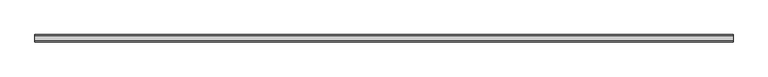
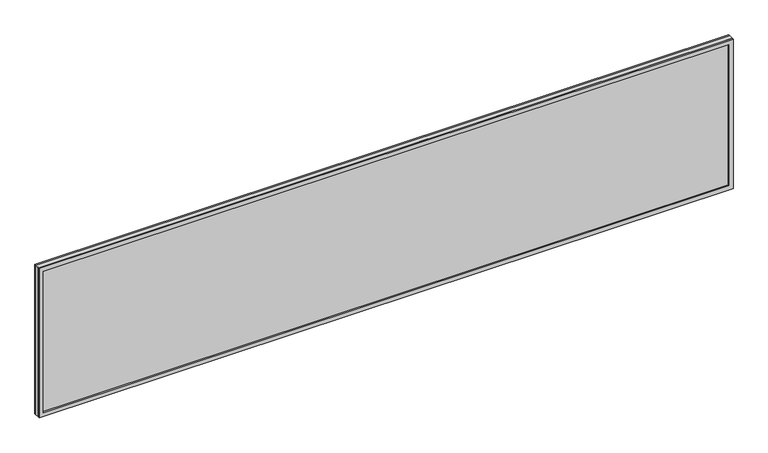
"""IFC4 building model written with IfcOpenShell, lengths in millimetres: plate geometry, ARQ-PA-IN-Vidrio Fijo : ARQ-PA-IN-Vidrio Fijo."""

import ifcopenshell
import ifcopenshell.guid

model = None  # the IFC model being written
_history = None  # IfcOwnerHistory: only IFC2X3 demands one
_inside = {}  # id of a spatial element -> (the spatial element, [elements in it])
_under = {}  # id of a project, library or spatial element -> (it, [spatial elements below it])
_declared = {}  # id of a project -> (the project, [libraries it declares])
_typed = {}  # id of a type object -> (the type object, [elements of that type])
_made_of = {}  # id of a material, layer set ... -> (it, [elements and type objects made of it])


def new_model(schema):
    """Start an empty IFC model of exactly this schema.

    Asked for "IFC4X3", IfcOpenShell would pick the latest addendum, in which some entities
    have other attributes; the version numbers below select the first issue.
    IFC2X3 requires an IfcOwnerHistory on every rooted entity: one is made here for all.
    """
    global model, _history
    if schema == "IFC4X3":
        model = ifcopenshell.file(schema_version=(4, 3, 0, 0))
    else:
        model = ifcopenshell.file(schema=schema)
    _inside.clear()
    _under.clear()
    _declared.clear()
    _typed.clear()
    _made_of.clear()
    _history = None
    if model.schema == "IFC2X3":
        org = make("IfcOrganization", Name="unknown")
        user = make(
            "IfcPersonAndOrganization",
            ThePerson=make("IfcPerson", FamilyName="unknown"),
            TheOrganization=org,
        )
        app = make(
            "IfcApplication",
            ApplicationDeveloper=org,
            Version="unknown",
            ApplicationFullName="unknown",
            ApplicationIdentifier="unknown",
        )
        _history = make(
            "IfcOwnerHistory",
            OwningUser=user,
            OwningApplication=app,
            ChangeAction="ADDED",
            CreationDate=0,
        )
    return model


def make(cls, **values):
    """One entity of the class cls with the attributes given. An attribute that is None is left unset."""
    return model.create_entity(
        cls, **{name: value for name, value in values.items() if value is not None}
    )


def rooted(cls, **values):
    """An entity with a GlobalId (a new one), such as an element, a storey or a relation."""
    return make(cls, GlobalId=ifcopenshell.guid.new(), OwnerHistory=_history, **values)


def si_unit(unit_type, name, prefix=None):
    """IfcSIUnit, for example si_unit("LENGTHUNIT", "METRE", prefix="MILLI")."""
    return make("IfcSIUnit", UnitType=unit_type, Prefix=prefix, Name=name)


def assignment(units):
    """IfcUnitAssignment: the units of a project."""
    return None if units is None else make("IfcUnitAssignment", Units=units)


def point(xyz):
    """IfcCartesianPoint."""
    return None if xyz is None else make("IfcCartesianPoint", Coordinates=xyz)


def direction(xyz):
    """IfcDirection."""
    return None if xyz is None else make("IfcDirection", DirectionRatios=xyz)


def frame(location, z_axis=None, x_axis=None):
    """IfcAxis2Placement3D, a coordinate frame: its origin and axes. An axis left out is left unset."""
    return make(
        "IfcAxis2Placement3D",
        Location=point(location),
        Axis=direction(z_axis),
        RefDirection=direction(x_axis),
    )


def origin():
    """The frame at (0, 0, 0) with its axes left unset."""
    return frame((0.0, 0.0, 0.0))


def origin_with_axes():
    """The frame at (0, 0, 0) with the z axis (0, 0, 1) and the x axis (1, 0, 0) written out."""
    return frame((0.0, 0.0, 0.0), z_axis=(0.0, 0.0, 1.0), x_axis=(1.0, 0.0, 0.0))


def place(relative_to, where):
    """IfcLocalPlacement: puts the frame where relative to a parent placement (None: the world)."""
    return make(
        "IfcLocalPlacement", PlacementRelTo=relative_to, RelativePlacement=where
    )


def context(
    kind, dimensions, precision=None, world=None, true_north=None, identifier=None
):
    """IfcGeometricRepresentationContext, for example the 3D "Model" context."""
    return make(
        "IfcGeometricRepresentationContext",
        ContextIdentifier=identifier,
        ContextType=kind,
        CoordinateSpaceDimension=dimensions,
        Precision=precision,
        WorldCoordinateSystem=world,
        TrueNorth=true_north,
    )


def project(units=None, contexts=None):
    """IfcProject with its units and contexts."""
    return rooted(
        "IfcProject",
        Name="project",
        RepresentationContexts=contexts,
        UnitsInContext=assignment(units),
    )


def spatial(cls, under=None, at=None, **own):
    """A site, building, storey or space (cls), placed at a placement, below another one or the project."""
    s = rooted(cls, ObjectPlacement=at, **own)
    if under is not None:
        _under.setdefault(under.id(), (under, []))[1].append(s)
    return s


def polyline(points):
    """IfcPolyline through the points."""
    return make("IfcPolyline", Points=[point(p) for p in points])


def outline(outer, holes=None, kind="AREA"):
    """IfcArbitraryClosedProfileDef: a profile drawn as a closed curve; with holes, ...WithVoids."""
    if holes is None:
        return make("IfcArbitraryClosedProfileDef", ProfileType=kind, OuterCurve=outer)
    return make(
        "IfcArbitraryProfileDefWithVoids",
        ProfileType=kind,
        OuterCurve=outer,
        InnerCurves=holes,
    )


def extrude(swept, where, along, depth):
    """IfcExtrudedAreaSolid: the profile swept, set in the frame where, extruded along a direction by depth."""
    return make(
        "IfcExtrudedAreaSolid",
        SweptArea=swept,
        Position=where,
        ExtrudedDirection=direction(along),
        Depth=depth,
    )


def shape(context_of_items, identifier, shape_type, items):
    """IfcShapeRepresentation: the items that make up one representation, for example the "Body"."""
    return make(
        "IfcShapeRepresentation",
        ContextOfItems=context_of_items,
        RepresentationIdentifier=identifier,
        RepresentationType=shape_type,
        Items=items,
    )


def source(mapping_origin, context_of_items, identifier, shape_type, items):
    """IfcRepresentationMap: a shape defined once, which mapped items show again and again."""
    return make(
        "IfcRepresentationMap",
        MappingOrigin=mapping_origin,
        MappedRepresentation=shape(context_of_items, identifier, shape_type, items),
    )


def transform(
    local_origin,
    x_axis=None,
    y_axis=None,
    z_axis=None,
    scale=None,
    scale2=None,
    scale3=None,
    uniform=True,
):
    """IfcCartesianTransformationOperator3D, or its non-uniform kind. x_axis, y_axis, z_axis: its Axis1, 2, 3."""
    if uniform:
        return make(
            "IfcCartesianTransformationOperator3D",
            Axis1=direction(x_axis),
            Axis2=direction(y_axis),
            LocalOrigin=point(local_origin),
            Scale=scale,
            Axis3=direction(z_axis),
        )
    return make(
        "IfcCartesianTransformationOperator3DnonUniform",
        Axis1=direction(x_axis),
        Axis2=direction(y_axis),
        LocalOrigin=point(local_origin),
        Scale=scale,
        Axis3=direction(z_axis),
        Scale2=scale2,
        Scale3=scale3,
    )


def mapped(mapping_source, mapping_target):
    """IfcMappedItem: shows the shape of a source again, moved by a transform."""
    return make(
        "IfcMappedItem", MappingSource=mapping_source, MappingTarget=mapping_target
    )


def made_of(thing, what):
    """Note that an element or type object is made of a material, layer set ...; save() writes the relation."""
    if what is not None:
        _made_of.setdefault(what.id(), (what, []))[1].append(thing)
    return thing


def element(
    cls,
    number,
    at=None,
    inside=None,
    cuts=None,
    type_object=None,
    material=None,
    context=None,
    identifier="Body",
    shape_type=None,
    held_by="IfcProductDefinitionShape",
    body=None,
    shapes=None,
    **own,
):
    """One element of the class cls, such as IfcWall. Its Tag is "e" and its number.

    at: its placement. inside: the storey or other place that contains it. cuts: it is an
    opening in that element (IfcRelVoidsElement). A single representation is given by context,
    identifier, shape_type and body (its items); several are given by shapes. held_by: the class
    of the entity that holds the representations. save() writes the other relations.
    """
    e = rooted(cls, Tag="e%d" % number, ObjectPlacement=at, **own)
    if body is not None:
        shapes = [shape(context, identifier, shape_type, body)]
    if shapes is not None:
        e.Representation = make(held_by, Representations=shapes)
    if inside is not None:
        _inside.setdefault(inside.id(), (inside, []))[1].append(e)
    if cuts is not None:
        rooted(
            "IfcRelVoidsElement", RelatingBuildingElement=cuts, RelatedOpeningElement=e
        )
    if type_object is not None:
        _typed.setdefault(type_object.id(), (type_object, []))[1].append(e)
    return made_of(e, material)


def aggregate(whole, parts):
    """IfcRelAggregates: a whole, such as a stair, and the parts it consists of."""
    return rooted("IfcRelAggregates", RelatingObject=whole, RelatedObjects=parts)


def save(model, path):
    """Write the relations noted so far, then the file.

    IfcRelAggregates (storeys below a building ...), IfcRelContainedInSpatialStructure (elements
    in a storey), IfcRelDefinesByType, IfcRelAssociatesMaterial and IfcRelDeclares: one each for
    every whole, place, type object, material and project.
    """
    for whole, parts in _under.values():
        aggregate(whole, parts)
    for where, things in _inside.values():
        rooted(
            "IfcRelContainedInSpatialStructure",
            RelatedElements=things,
            RelatingStructure=where,
        )
    for kind, things in _typed.values():
        rooted("IfcRelDefinesByType", RelatedObjects=things, RelatingType=kind)
    for what, things in _made_of.values():
        rooted("IfcRelAssociatesMaterial", RelatedObjects=things, RelatingMaterial=what)
    for by, libraries in _declared.values():
        rooted("IfcRelDeclares", RelatingContext=by, RelatedDefinitions=libraries)
    model.write(path)


def plate_c496a2fa(model_context):
    return source(origin(), model_context, "Body", "SweptSolid", [
        extrude(outline(polyline([(1646.9998852, -10.0), (-1646.9998852, -10.0), (-1646.9998852, 10.0), (1646.9998852, 10.0), (1646.9998852, -10.0)])), origin_with_axes(), (0.0, 0.0, 1.0), 750.0),
        extrude(outline(polyline([(750.0, -1646.9998852), (0.0, -1646.9998852), (0.0, 1646.9998852), (750.0, 1646.9998852), (750.0, -1646.9998852)]), holes=[polyline([(730.0, -1626.9998852), (730.0, 1626.9998852), (20.0, 1626.9998852), (20.0, -1626.9998852), (730.0, -1626.9998852)])]), frame((0.0, -17.5, 0.0), z_axis=(0.0, 1.0, 0.0), x_axis=(0.0, 0.0, 1.0)), (0.0, 0.0, 1.0), 35.0),
    ])


if __name__ == "__main__":
    model = new_model("IFC4")
    model_context = context("Model", 3, world=origin())
    ifc_project = project(units=[si_unit("LENGTHUNIT", "METRE", prefix="MILLI")], contexts=[model_context])
    site = spatial("IfcSite", under=ifc_project)
    building = spatial("IfcBuilding", under=site)
    placement = place(None, origin())
    plate_shape = plate_c496a2fa(model_context)
    element("IfcPlate", 1, ObjectType="ARQ-PA-IN-Vidrio Fijo : ARQ-PA-IN-Vidrio Fijo", at=placement, inside=building, context=model_context, shape_type="MappedRepresentation", body=[
        mapped(plate_shape, transform((0.0, 0.0, 0.0), x_axis=(1.0, 0.0, 0.0), y_axis=(0.0, 1.0, 0.0), z_axis=(0.0, 0.0, 1.0))),
    ])
    save(model, "model.ifc")
